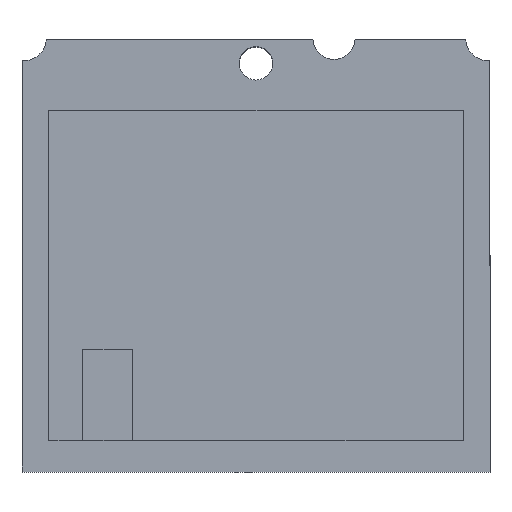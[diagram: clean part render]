
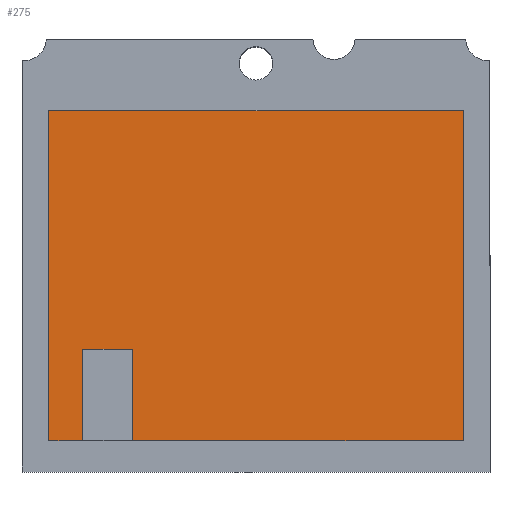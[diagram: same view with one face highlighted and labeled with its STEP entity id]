
A CAD part, top view. The second image highlights one B-rep face of the part: STEP entity #275.
In plain terms, the highlighted planar face has unit normal (0, 0, 1).
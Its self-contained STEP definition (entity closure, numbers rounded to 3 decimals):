
#3 = CARTESIAN_POINT ( 'NONE',  ( 46.5, 46.9, 182. ) ) ;
#10 = VECTOR ( 'NONE', #197, 1000. ) ;
#65 = VECTOR ( 'NONE', #159, 1000. ) ;
#76 = DIRECTION ( 'NONE',  ( -1., 0., 0. ) ) ;
#78 = LINE ( 'NONE', #641, #682 ) ;
#80 = LINE ( 'NONE', #790, #161 ) ;
#92 = DIRECTION ( 'NONE',  ( -1., 0., 0. ) ) ;
#101 = EDGE_LOOP ( 'NONE', ( #531, #373, #454, #315, #767, #1025, #1012, #695 ) ) ;
#111 = CARTESIAN_POINT ( 'NONE',  ( 46.5, -27.1, 182. ) ) ;
#129 = CARTESIAN_POINT ( 'NONE',  ( -46.5, -27.1, 182. ) ) ;
#146 = VECTOR ( 'NONE', #76, 1000. ) ;
#159 = DIRECTION ( 'NONE',  ( 0., -1., 0. ) ) ;
#161 = VECTOR ( 'NONE', #552, 1000. ) ;
#175 = EDGE_CURVE ( 'NONE', #602, #989, #796, .T. ) ;
#197 = DIRECTION ( 'NONE',  ( 1., 0., 0. ) ) ;
#204 = CARTESIAN_POINT ( 'NONE',  ( 46.5, 46.9, 182. ) ) ;
#223 = EDGE_CURVE ( 'NONE', #866, #602, #543, .T. ) ;
#233 = CARTESIAN_POINT ( 'NONE',  ( -27.7, -27.1, 182. ) ) ;
#254 = CARTESIAN_POINT ( 'NONE',  ( -27.7, -6.6, 182. ) ) ;
#275 = ADVANCED_FACE ( 'NONE', ( #897 ), #335, .T. ) ;
#288 = LINE ( 'NONE', #111, #10 ) ;
#290 = AXIS2_PLACEMENT_3D ( 'NONE', #932, #691, #1029 ) ;
#309 = LINE ( 'NONE', #322, #685 ) ;
#315 = ORIENTED_EDGE ( 'NONE', *, *, #858, .T. ) ;
#322 = CARTESIAN_POINT ( 'NONE',  ( -46.5, 46.9, 182. ) ) ;
#335 = PLANE ( 'NONE',  #290 ) ;
#346 = VERTEX_POINT ( 'NONE', #519 ) ;
#373 = ORIENTED_EDGE ( 'NONE', *, *, #946, .T. ) ;
#453 = CARTESIAN_POINT ( 'NONE',  ( -38.9, -6.6, 182. ) ) ;
#454 = ORIENTED_EDGE ( 'NONE', *, *, #754, .T. ) ;
#463 = EDGE_CURVE ( 'NONE', #608, #989, #288, .T. ) ;
#466 = DIRECTION ( 'NONE',  ( 0., -1., 0. ) ) ;
#472 = EDGE_CURVE ( 'NONE', #868, #608, #657, .T. ) ;
#497 = CARTESIAN_POINT ( 'NONE',  ( -27.7, -6.6, 182. ) ) ;
#519 = CARTESIAN_POINT ( 'NONE',  ( 46.5, -27.1, 182. ) ) ;
#531 = ORIENTED_EDGE ( 'NONE', *, *, #1006, .F. ) ;
#543 = LINE ( 'NONE', #497, #146 ) ;
#552 = DIRECTION ( 'NONE',  ( 1., 0., 0. ) ) ;
#595 = DIRECTION ( 'NONE',  ( 0., 1., 0. ) ) ;
#602 = VERTEX_POINT ( 'NONE', #453 ) ;
#608 = VERTEX_POINT ( 'NONE', #129 ) ;
#613 = VERTEX_POINT ( 'NONE', #204 ) ;
#615 = CARTESIAN_POINT ( 'NONE',  ( -46.5, -27.1, 182. ) ) ;
#641 = CARTESIAN_POINT ( 'NONE',  ( -27.7, -27.1, 182. ) ) ;
#657 = LINE ( 'NONE', #615, #856 ) ;
#662 = VERTEX_POINT ( 'NONE', #233 ) ;
#682 = VECTOR ( 'NONE', #727, 1000. ) ;
#685 = VECTOR ( 'NONE', #92, 1000. ) ;
#691 = DIRECTION ( 'NONE',  ( 0., 0., 1. ) ) ;
#695 = ORIENTED_EDGE ( 'NONE', *, *, #223, .F. ) ;
#727 = DIRECTION ( 'NONE',  ( 0., 1., 0. ) ) ;
#754 = EDGE_CURVE ( 'NONE', #346, #613, #1080, .T. ) ;
#767 = ORIENTED_EDGE ( 'NONE', *, *, #472, .T. ) ;
#790 = CARTESIAN_POINT ( 'NONE',  ( 46.5, -27.1, 182. ) ) ;
#796 = LINE ( 'NONE', #1092, #65 ) ;
#799 = VECTOR ( 'NONE', #595, 1000. ) ;
#810 = CARTESIAN_POINT ( 'NONE',  ( -38.9, -27.1, 182. ) ) ;
#856 = VECTOR ( 'NONE', #466, 1000. ) ;
#858 = EDGE_CURVE ( 'NONE', #613, #868, #309, .T. ) ;
#859 = CARTESIAN_POINT ( 'NONE',  ( -46.5, 46.9, 182. ) ) ;
#866 = VERTEX_POINT ( 'NONE', #254 ) ;
#868 = VERTEX_POINT ( 'NONE', #859 ) ;
#897 = FACE_OUTER_BOUND ( 'NONE', #101, .T. ) ;
#932 = CARTESIAN_POINT ( 'NONE',  ( -52.05, 63.2, 182. ) ) ;
#946 = EDGE_CURVE ( 'NONE', #662, #346, #80, .T. ) ;
#989 = VERTEX_POINT ( 'NONE', #810 ) ;
#1006 = EDGE_CURVE ( 'NONE', #662, #866, #78, .T. ) ;
#1012 = ORIENTED_EDGE ( 'NONE', *, *, #175, .F. ) ;
#1025 = ORIENTED_EDGE ( 'NONE', *, *, #463, .T. ) ;
#1029 = DIRECTION ( 'NONE',  ( -1., 0., 0. ) ) ;
#1080 = LINE ( 'NONE', #3, #799 ) ;
#1092 = CARTESIAN_POINT ( 'NONE',  ( -38.9, -27.1, 182. ) ) ;
